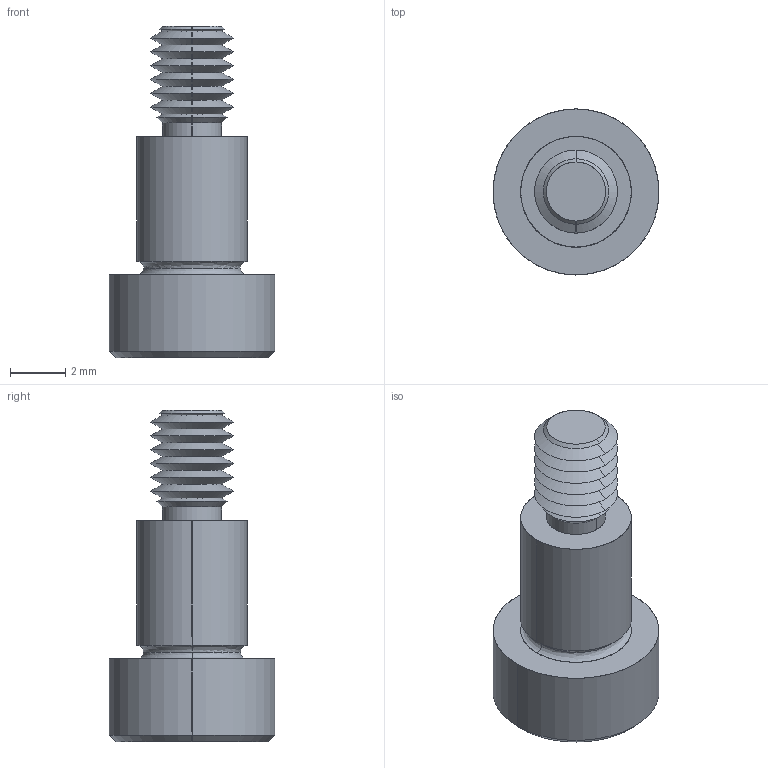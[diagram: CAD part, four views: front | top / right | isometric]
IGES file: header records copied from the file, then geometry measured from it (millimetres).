
Start section: SolidWorks IGES file using analytic representation for surfaces
Global section: file name: C:\Users\IanO\Documents\Temp Folder\GENERAL\SCREW REVISION\P0130_v2\P0130.T5_v2_20220106_IGES\P0130.040-005-T5.igs; native system: SolidWorks 2019; preprocessor: SolidWorks 2019; author: IanO; date: 220106.220509; units: millimetre
Bounding box: 6 x 6 x 12 mm (x, y, z)
Surface area: 247.7 mm2 (no closed solid volume)
Topology: 0 solids, 0 shells, 68 faces, 520 edges, 518 vertices
Faces by surface type: revolution 48, bspline 20
